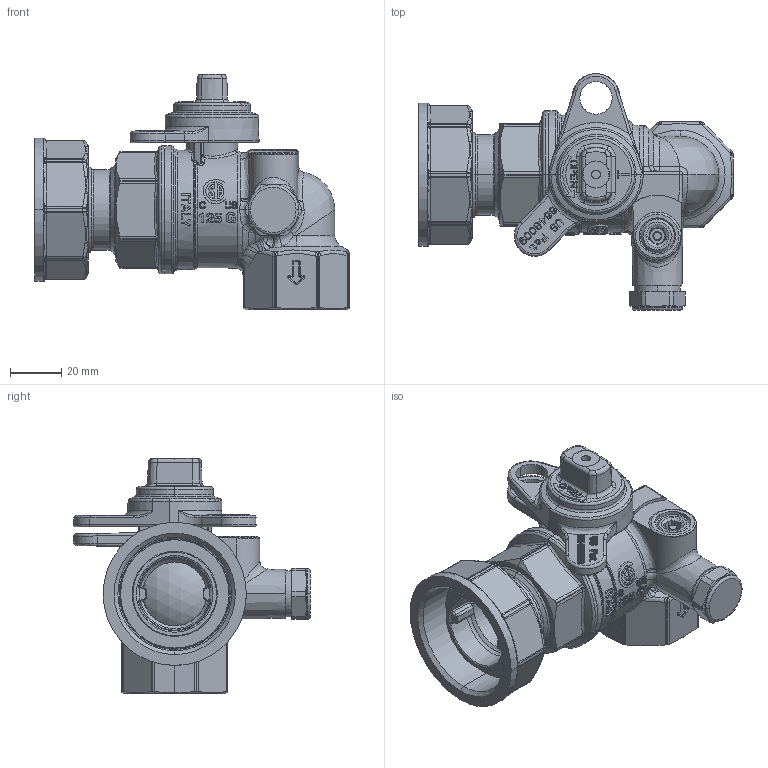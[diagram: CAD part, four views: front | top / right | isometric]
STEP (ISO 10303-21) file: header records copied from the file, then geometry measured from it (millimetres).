
FILE_DESCRIPTION(('Open CASCADE Model'),'2;1');
FILE_NAME('Open CASCADE Shape Model','2021-12-01T10:18:56',('Author'),( 'Open CASCADE'),'Open CASCADE STEP processor 7.3','Open CASCADE 7.3' ,'Unknown');
FILE_SCHEMA(('AUTOMOTIVE_DESIGN { 1 0 10303 214 1 1 1 1 }'));
Length unit declared in the file: millimetre
Products named in the file (19): Open CASCADE STEP translator 7.3 1; Open CASCADE STEP translator 7.3 1.1; Open CASCADE STEP translator 7.3 1.2; Open CASCADE STEP translator 7.3 1.3; Open CASCADE STEP translator 7.3 1.4; Open CASCADE STEP translator 7.3 1.5; Open CASCADE STEP translator 7.3 1.6; Open CASCADE STEP translator 7.3 1.7; Open CASCADE STEP translator 7.3 1.8; Open CASCADE STEP translator 7.3 1.9; Open CASCADE STEP translator 7.3 1.10; Open CASCADE STEP translator 7.3 1.11; Open CASCADE STEP translator 7.3 1.12; Open CASCADE STEP translator 7.3 1.13; Open CASCADE STEP translator 7.3 1.14; Open CASCADE STEP translator 7.3 1.15; Open CASCADE STEP translator 7.3 1.16; Open CASCADE STEP translator 7.3 1.17; Open CASCADE STEP translator 7.3 1.18
Assembly tree (18 placements, depth 2):
  Open CASCADE STEP translator 7.3 1
    Open CASCADE STEP translator 7.3 1.1
    Open CASCADE STEP translator 7.3 1.2
    Open CASCADE STEP translator 7.3 1.3
    Open CASCADE STEP translator 7.3 1.4
    Open CASCADE STEP translator 7.3 1.5
    Open CASCADE STEP translator 7.3 1.6
    Open CASCADE STEP translator 7.3 1.7
    Open CASCADE STEP translator 7.3 1.8
    Open CASCADE STEP translator 7.3 1.9
    Open CASCADE STEP translator 7.3 1.10
    Open CASCADE STEP translator 7.3 1.11
    Open CASCADE STEP translator 7.3 1.12
    Open CASCADE STEP translator 7.3 1.13
    Open CASCADE STEP translator 7.3 1.14
    Open CASCADE STEP translator 7.3 1.15
    Open CASCADE STEP translator 7.3 1.16
    Open CASCADE STEP translator 7.3 1.17
    Open CASCADE STEP translator 7.3 1.18
Bounding box: 123.15 x 92.48 x 92 mm (x, y, z)
Volume: 139813 mm3; surface area: 81867.3 mm2
Topology: 18 solids, 18 shells, 2545 faces, 6520 edges, 4092 vertices
Faces by surface type: plane 945, bspline 421, cylinder 376, extrusion 365, cone 198, torus 182, sphere 42, revolution 16
Entity records: 256472 total; most frequent: CARTESIAN_POINT 137274, DIRECTION 18016, ORIENTED_EDGE 13026, PCURVE 13026, DEFINITIONAL_REPRESENTATION 13026, VECTOR 11360, LINE 10995, B_SPLINE_CURVE_WITH_KNOTS 7083
